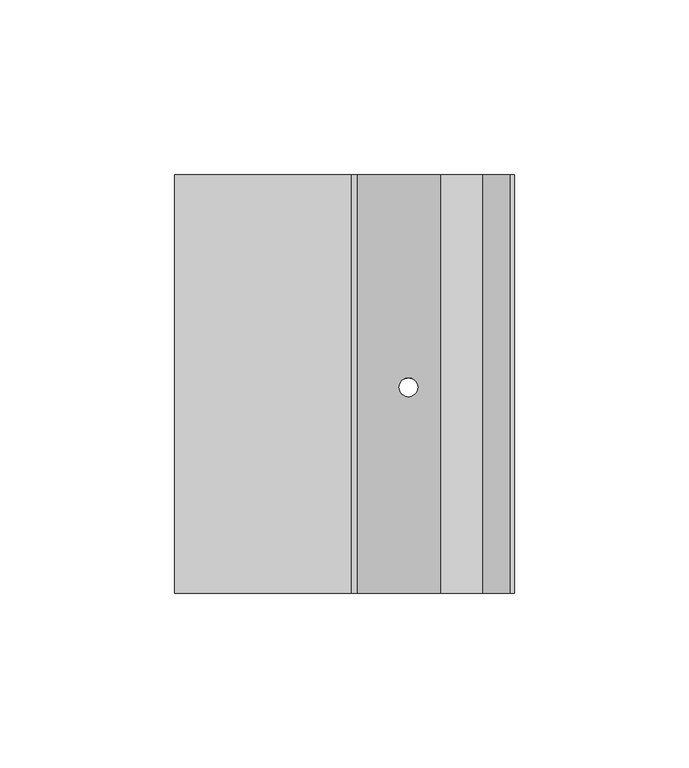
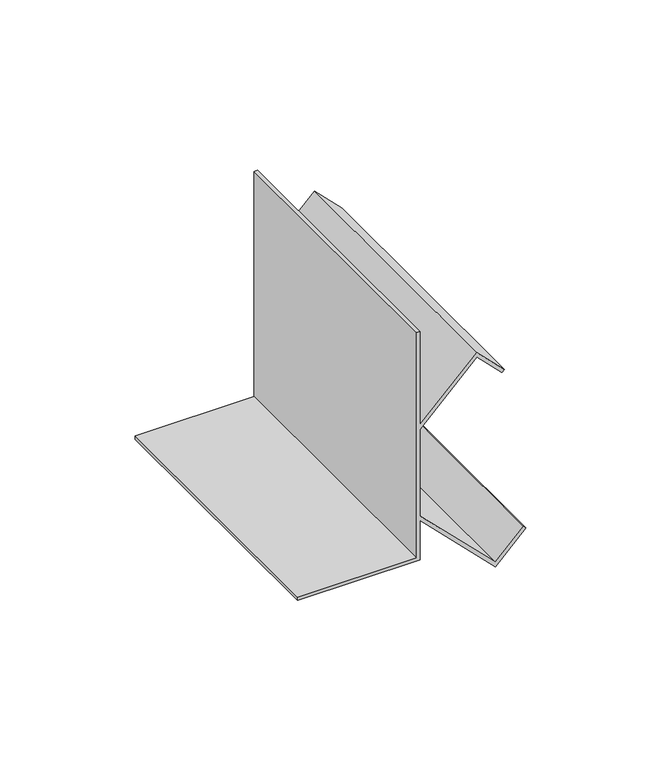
"""IFC4 building model written with IfcOpenShell, lengths in millimetres: proxy geometry, Mechanical Fittings & Accessories9 : Mechanical Fittings & Accessories."""

from ifc_helpers import new_model, si_unit, frame, origin, place, context, project, spatial, polyline, ellipse_curve, source, transform, mapped, element, save
from ifc_brep_helpers import plane_surface, revolved_surface, advanced_brep


def generic_models_b8af8917(model_context):
    return source(origin(), model_context, "Body", "AdvancedBrep", [
        advanced_brep(
        [(-10977.7433312, 12023.4963986, 4114.8), (-11028.5433312, 12023.4963986, 4114.8), (-11028.5433312, 12023.4963986, 4113.3117188), (-10976.25505, 12023.4963986, 4113.3117188), (-10976.25505, 12023.4963986, 4131.1383509), (-10944.145289, 12023.4963986, 4099.0285899), (-10931.1663177, 12023.4963986, 4112.0075612), (-10932.2186914, 12023.4963986, 4113.059935), (-10944.145289, 12023.4963986, 4101.1333374), (-10976.25505, 12023.4963986, 4133.2430984), (-10976.25505, 12023.4963986, 4172.2761118), (-10952.082789, 12023.4963986, 4196.4483729), (-10941.3468164, 12023.4963986, 4185.7124003), (-10940.2944427, 12023.4963986, 4186.7647741), (-10952.082789, 12023.4963986, 4198.5531204), (-10976.25505, 12023.4963986, 4174.3808594), (-10976.25505, 12023.4963986, 4216.4), (-10977.7433312, 12023.4963986, 4216.4), (-10977.7433312, 12143.4645457, 4114.8), (-10977.7433312, 12143.4645457, 4216.4), (-10976.25505, 12143.4645457, 4216.4), (-10976.25505, 12143.4645457, 4174.3808594), (-10952.082789, 12143.4645457, 4198.5531204), (-10940.2944427, 12143.4645457, 4186.7647741), (-10941.3468164, 12143.4645457, 4185.7124003), (-10952.082789, 12143.4645457, 4196.4483729), (-10976.25505, 12143.4645457, 4172.2761118), (-10976.25505, 12143.4645457, 4133.2430984), (-10944.145289, 12143.4645457, 4101.1333374), (-10932.2186914, 12143.4645457, 4113.059935), (-10931.1663177, 12143.4645457, 4112.0075612), (-10944.145289, 12143.4645457, 4099.0285899), (-10976.25505, 12143.4645457, 4131.1383509), (-10976.25505, 12143.4645457, 4113.3117188), (-11028.5433312, 12143.4645457, 4113.3117188), (-11028.5433312, 12143.4645457, 4114.8), (-10964.1411396, 12082.5191481, 4119.0244406), (-10958.8017728, 12082.5191481, 4113.6850737), (-10958.8017728, 12082.5191481, 4115.7898213), (-10964.1411396, 12082.5191481, 4121.1291881), (-10964.1411396, 12082.5191481, 4184.3900222), (-10958.8017728, 12082.5191481, 4189.729389), (-10958.8017728, 12082.5191481, 4191.8341365), (-10964.1411396, 12082.5191481, 4186.4947697)],
        [
            (0, 1),
            (1, 2),
            (2, 3),
            (3, 4),
            (4, 5),
            (5, 6),
            (6, 7),
            (7, 8),
            (8, 9),
            (9, 10),
            (10, 11),
            (11, 12),
            (12, 13),
            (13, 14),
            (14, 15),
            (15, 16),
            (16, 17),
            (17, 0),
            (18, 19),
            (19, 20),
            (20, 21),
            (21, 22),
            (22, 23),
            (23, 24),
            (24, 25),
            (25, 26),
            (26, 27),
            (27, 28),
            (28, 29),
            (29, 30),
            (30, 31),
            (31, 32),
            (32, 33),
            (33, 34),
            (34, 35),
            (35, 18),
            (0, 18),
            (35, 1),
            (34, 2),
            (33, 3),
            (32, 4),
            (31, 5),
            (36, 37, ellipse_curve(frame((-10961.4714562, 12082.5191481, 4116.3547571), z_axis=(0.7071067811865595, 0.0, 0.7071067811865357), x_axis=(-0.7071067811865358, 0.0, 0.7071067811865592)), 3.7755025, 2.6696834)),
            (37, 36, ellipse_curve(frame((-10961.4714562, 12082.5191481, 4116.3547571), z_axis=(0.7071067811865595, 0.0, 0.7071067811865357), x_axis=(-0.7071067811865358, 0.0, 0.7071067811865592)), 3.7755025, 2.6696834)),
            (30, 6),
            (29, 7),
            (28, 8),
            (27, 9),
            (38, 39, ellipse_curve(frame((-10961.4714562, 12082.5191481, 4118.4595047), z_axis=(-0.7071067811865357, 0.0, -0.7071067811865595), x_axis=(-0.7071067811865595, 0.0, 0.7071067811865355)), 3.7755025, 2.6696834)),
            (39, 38, ellipse_curve(frame((-10961.4714562, 12082.5191481, 4118.4595047), z_axis=(-0.7071067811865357, 0.0, -0.7071067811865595), x_axis=(-0.7071067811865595, 0.0, 0.7071067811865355)), 3.7755025, 2.6696834)),
            (26, 10),
            (25, 11),
            (40, 41, ellipse_curve(frame((-10961.4714562, 12082.5191481, 4187.0597056), z_axis=(-0.7071067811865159, 0.0, 0.7071067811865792), x_axis=(0.7071067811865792, 0.0, 0.7071067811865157)), 3.7755025, 2.6696834)),
            (41, 40, ellipse_curve(frame((-10961.4714562, 12082.5191481, 4187.0597056), z_axis=(-0.7071067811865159, 0.0, 0.7071067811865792), x_axis=(0.7071067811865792, 0.0, 0.7071067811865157)), 3.7755025, 2.6696834)),
            (24, 12),
            (23, 13),
            (22, 14),
            (21, 15),
            (42, 43, ellipse_curve(frame((-10961.4714562, 12082.5191481, 4189.1644531), z_axis=(0.7071067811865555, 0.0, -0.7071067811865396), x_axis=(0.7071067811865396, 0.0, 0.7071067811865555)), 3.7755025, 2.6696834)),
            (43, 42, ellipse_curve(frame((-10961.4714562, 12082.5191481, 4189.1644531), z_axis=(0.7071067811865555, 0.0, -0.7071067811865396), x_axis=(0.7071067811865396, 0.0, 0.7071067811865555)), 3.7755025, 2.6696834)),
            (20, 16),
            (19, 17),
            (36, 39),
            (38, 37),
            (40, 43),
            (42, 41),
        ],
        [
            plane_surface(frame((-11028.5433312, 12023.4963986, 4114.8), z_axis=(0.0, -1.0, 0.0), x_axis=(-1.0, 0.0, 0.0))),
            plane_surface(frame((-11028.5433312, 12143.4645457, 4114.8), z_axis=(0.0, 1.0, 0.0), x_axis=(1.0, 0.0, 0.0))),
            plane_surface(frame((-10977.7433312, 12023.4963986, 4114.8), z_axis=(0.0, 0.0, 1.0), x_axis=(0.0, 1.0, 0.0))),
            plane_surface(frame((-11028.5433312, 12023.4963986, 4114.8), z_axis=(-1.0, 0.0, 0.0), x_axis=(0.0, 1.0, 0.0))),
            plane_surface(frame((-11028.5433312, 12023.4963986, 4113.3117188), z_axis=(0.0, 0.0, -1.0), x_axis=(0.0, 1.0, 0.0))),
            plane_surface(frame((-10976.25505, 12023.4963986, 4113.3117188), z_axis=(1.0, 0.0, 0.0), x_axis=(0.0, 1.0, 0.0))),
            plane_surface(frame((-10976.25505, 12023.4963986, 4131.1383509), z_axis=(-0.7071067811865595, 0.0, -0.7071067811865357), x_axis=(0.0, 1.0, 0.0))),
            plane_surface(frame((-10944.145289, 12023.4963986, 4099.0285899), z_axis=(0.7071067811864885, 0.0, -0.7071067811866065), x_axis=(0.0, 1.0, 0.0))),
            plane_surface(frame((-10931.1663177, 12023.4963986, 4112.0075612), z_axis=(0.7071067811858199, 0.0, 0.7071067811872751), x_axis=(0.0, 1.0, 0.0))),
            plane_surface(frame((-10932.2186914, 12023.4963986, 4113.059935), z_axis=(-0.7071067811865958, 0.0, 0.7071067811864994), x_axis=(0.0, 1.0, 0.0))),
            plane_surface(frame((-10944.145289, 12023.4963986, 4101.1333374), z_axis=(0.7071067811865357, 0.0, 0.7071067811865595), x_axis=(0.0, 1.0, 0.0))),
            plane_surface(frame((-10976.25505, 12023.4963986, 4133.2430984), z_axis=(1.0, 0.0, 0.0), x_axis=(0.0, 1.0, 0.0))),
            plane_surface(frame((-10976.25505, 12023.4963986, 4172.2761118), z_axis=(0.7071067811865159, 0.0, -0.7071067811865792), x_axis=(0.0, 1.0, 0.0))),
            plane_surface(frame((-10952.082789, 12023.4963986, 4196.4483729), z_axis=(-0.7071067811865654, 0.0, -0.7071067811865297), x_axis=(0.0, 1.0, 0.0))),
            plane_surface(frame((-10941.3468164, 12023.4963986, 4185.7124003), z_axis=(0.7071067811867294, 0.0, -0.7071067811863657), x_axis=(0.0, 1.0, 0.0))),
            plane_surface(frame((-10940.2944427, 12023.4963986, 4186.7647741), z_axis=(0.707106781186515, 0.0, 0.70710678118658), x_axis=(0.0, 1.0, 0.0))),
            plane_surface(frame((-10952.082789, 12023.4963986, 4198.5531204), z_axis=(-0.7071067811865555, 0.0, 0.7071067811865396), x_axis=(0.0, 1.0, 0.0))),
            plane_surface(frame((-10976.25505, 12023.4963986, 4174.3808594), z_axis=(1.0, 0.0, 0.0), x_axis=(0.0, 1.0, 0.0))),
            plane_surface(frame((-10976.25505, 12023.4963986, 4216.4), z_axis=(0.0, 0.0, 1.0), x_axis=(0.0, 1.0, 0.0))),
            plane_surface(frame((-10977.7433312, 12023.4963986, 4216.4), z_axis=(-1.0, 0.0, 0.0), x_axis=(0.0, 1.0, 0.0))),
            revolved_surface(polyline([(-10958.801772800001, 12082.5191481, 4121.129188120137), (-10958.801772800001, 12082.5191481, 4113.685073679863)]), (-10961.4714562, 12082.5191481, 4097.2034211), (0.0, 0.0, 1.0)),
            revolved_surface(polyline([(-10958.801772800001, 12082.5191481, 4191.834136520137), (-10958.801772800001, 12082.5191481, 4184.390022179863)]), (-10961.4714562, 12082.5191481, 4097.2034211), (0.0, 0.0, 1.0)),
        ],
        [
            (0, [[1, 2, 3, 4, 5, 6, 7, 8, 9, 10, 11, 12, 13, 14, 15, 16, 17, 18]]),
            (1, [[19, 20, 21, 22, 23, 24, 25, 26, 27, 28, 29, 30, 31, 32, 33, 34, 35, 36]]),
            (2, [[-1, 37, -36, 38]]),
            (3, [[-2, -38, -35, 39]]),
            (4, [[-3, -39, -34, 40]]),
            (5, [[-4, -40, -33, 41]]),
            (6, [[-5, -41, -32, 42], [43, 44]]),
            (7, [[-6, -42, -31, 45]]),
            (8, [[-7, -45, -30, 46]]),
            (9, [[-8, -46, -29, 47]]),
            (10, [[-9, -47, -28, 48], [49, 50]]),
            (11, [[-10, -48, -27, 51]]),
            (12, [[-11, -51, -26, 52], [53, 54]]),
            (13, [[-12, -52, -25, 55]]),
            (14, [[-13, -55, -24, 56]]),
            (15, [[-14, -56, -23, 57]]),
            (16, [[-15, -57, -22, 58], [59, 60]]),
            (17, [[-16, -58, -21, 61]]),
            (18, [[-17, -61, -20, 62]]),
            (19, [[-18, -62, -19, -37]]),
            (20, [[63, -49, 64, -43]]),
            (21, [[65, -59, 66, -53]]),
            (20, [[-63, -44, -64, -50]]),
            (21, [[-65, -54, -66, -60]]),
        ],
    ),
    ])


if __name__ == "__main__":
    model = new_model("IFC4")
    model_context = context("Model", 3, world=origin())
    ifc_project = project(units=[si_unit("LENGTHUNIT", "METRE", prefix="MILLI")], contexts=[model_context])
    site = spatial("IfcSite", under=ifc_project)
    building = spatial("IfcBuilding", under=site)
    placement = place(None, origin())
    generic_models_shape = generic_models_b8af8917(model_context)
    element("IfcBuildingElementProxy", 1, Name="Mechanical Fittings & Accessories9 : Mechanical Fittings & Accessories", ObjectType="Mechanical Fittings & Accessories9 : Mechanical Fittings & Accessories", at=placement, inside=building, context=model_context, shape_type="MappedRepresentation", body=[
        mapped(generic_models_shape, transform((0.0, 0.0, 0.0), x_axis=(1.0, 0.0, 0.0), y_axis=(0.0, 1.0, 0.0), z_axis=(0.0, 0.0, 1.0))),
    ])
    save(model, "model.ifc")
